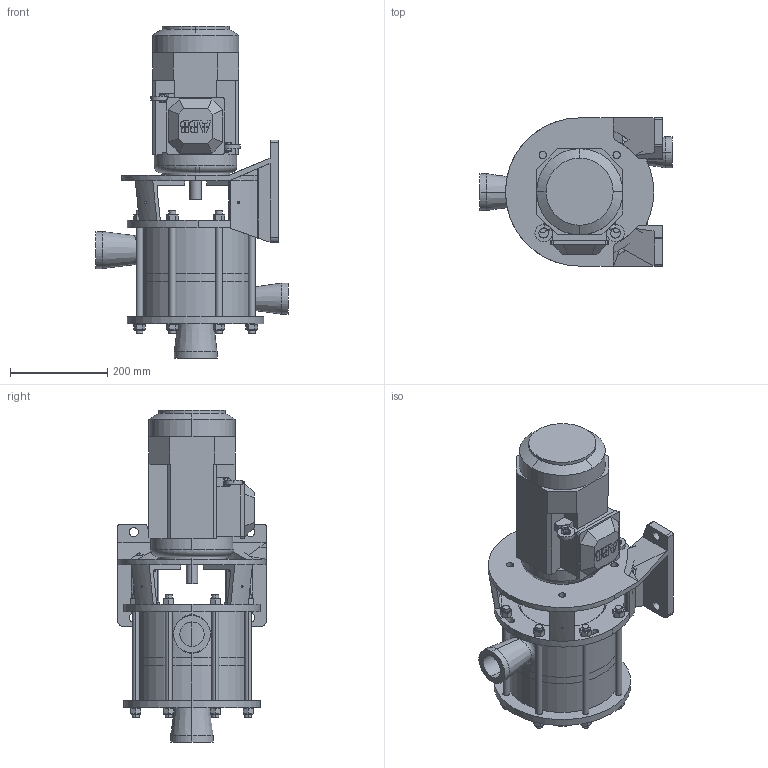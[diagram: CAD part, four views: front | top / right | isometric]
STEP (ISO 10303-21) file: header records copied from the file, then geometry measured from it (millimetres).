
FILE_DESCRIPTION((''),'2;1');
FILE_NAME('MJ40--90 frame.stp','2010-08-04T14:25:51',(''),(''),'AutoCAD STEP 2000i','AutoCAD 2000i',', , ');
FILE_SCHEMA(('CONFIG_CONTROL_DESIGN'));
Length unit declared in the file: millimetre
Products named in the file (2): MJ40--90 FRAME A; A2.4969 90 flange
Assembly tree (1 placements, depth 2):
  MJ40--90 FRAME A
    A2.4969 90 flange
Bounding box: 395 x 305 x 683 mm (x, y, z)
Volume: 19285760.1 mm3; surface area: 1382037.2 mm2
Topology: 14 solids, 110 shells, 1378 faces, 3656 edges, 2352 vertices
Faces by surface type: cylinder 485, torus 388, plane 363, cone 104, bspline 38
Entity records: 47012 total; most frequent: CARTESIAN_POINT 11543, DIRECTION 8079, ORIENTED_EDGE 7280, EDGE_CURVE 3640, AXIS2_PLACEMENT_3D 3458, VERTEX_POINT 2352, CIRCLE 2080, EDGE_LOOP 1520
